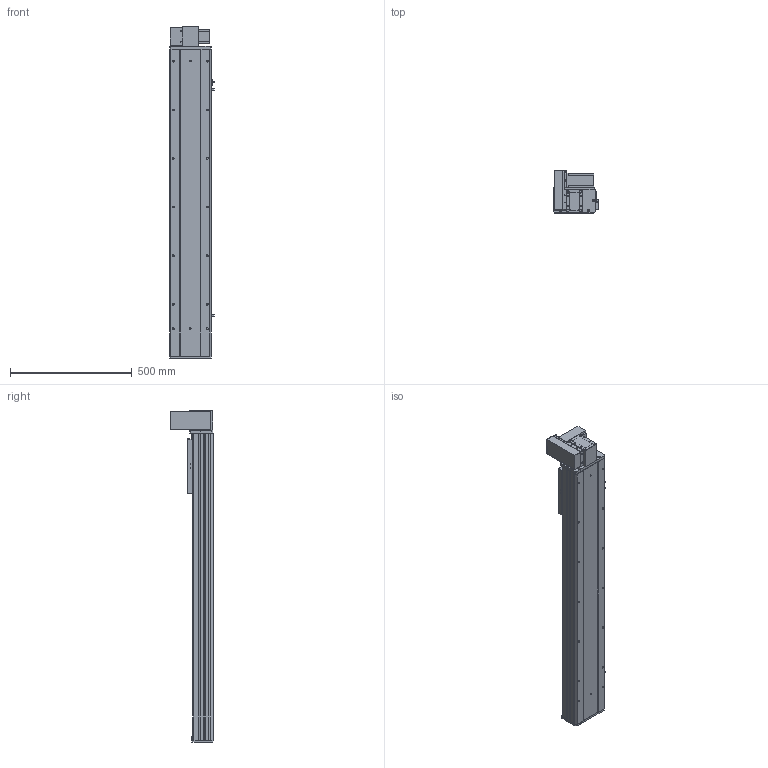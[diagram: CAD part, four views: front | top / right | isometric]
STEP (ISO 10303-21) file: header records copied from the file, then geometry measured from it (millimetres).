
FILE_DESCRIPTION (( 'STEP AP203' ), '1' );
FILE_NAME ('Y170CB-D105-S950-UL-P400W.STEP', '2020-02-20T02:20:25', ( '微软用户' ), ( '微软中国' ), 'SwSTEP 2.0', 'SolidWorks 2017', '' );
FILE_SCHEMA (( 'CONFIG_CONTROL_DESIGN' ));
Length unit declared in the file: millimetre
Products named in the file (18): 70CB-詩湍--; san松下电机400不带刹车----; Y100-135俋离換覜ん--; 70CB-掛极-; Y170CB-陔俋离換覜結え---; --70CB --喘謫眊楊擘啣-; 70B喘謫眊----; 70CB-耜裔啣-; Y1埴倛裔; 70C--詩湍揤踡え-; 17B-耜蚾蟀諉啣----; 70CB--耜裔; 00B-俋欶BM--163; 70C-雄赽釱-奻-; B-源倛裔啣; Y170CB-D105-S950-UL-P400W; 0C--雄赽釱俋欶-170; 0B-萇儂楊擘啣
Assembly tree (21 placements, depth 2):
  Y170CB-D105-S950-UL-P400W
    B-源倛裔啣
    0B-萇儂楊擘啣
    san松下电机400不带刹车----
    70CB-掛极-
    --70CB --喘謫眊楊擘啣-
    70CB-耜裔啣-  x2
    70C--詩湍揤踡え-  x2
    70CB--耜裔
    70C-雄赽釱-奻-
    0C--雄赽釱俋欶-170
    70CB-詩湍--
    Y100-135俋离換覜ん--  x3
    Y170CB-陔俋离換覜結え---
    70B喘謫眊----
    Y1埴倛裔
    17B-耜蚾蟀諉啣----
    00B-俋欶BM--163
Bounding box: 183.5 x 174 x 1366 mm (x, y, z)
Volume: 6342373.9 mm3; surface area: 2272207 mm2
Topology: 21 solids, 21 shells, 1007 faces, 2693 edges, 1786 vertices
Faces by surface type: cylinder 521, plane 462, cone 24
Entity records: 32036 total; most frequent: CARTESIAN_POINT 5856, DIRECTION 5210, ORIENTED_EDGE 4868, EDGE_CURVE 2434, AXIS2_PLACEMENT_3D 1908, VERTEX_POINT 1616, LINE 1394, VECTOR 1394
